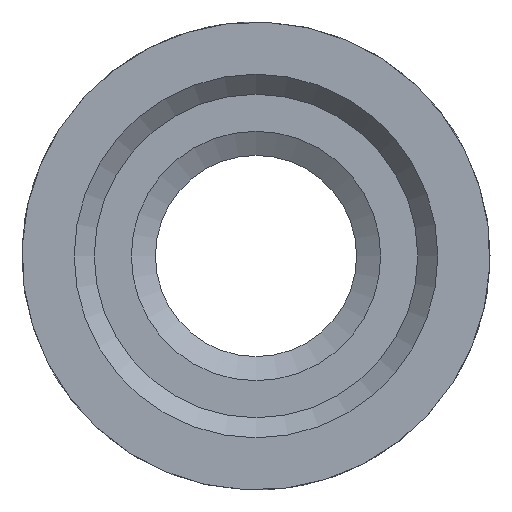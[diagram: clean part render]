
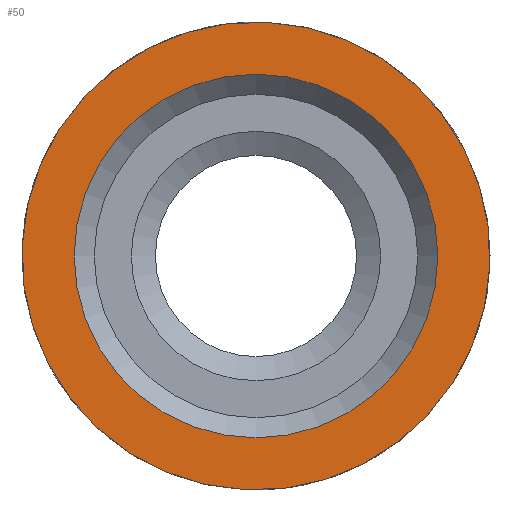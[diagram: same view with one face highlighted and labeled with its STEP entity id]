
A CAD part, front view. The second image highlights one B-rep face of the part: STEP entity #50.
In plain terms, the highlighted planar face has unit normal (0, -1, 0).
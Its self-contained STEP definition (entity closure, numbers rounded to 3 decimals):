
#50=ADVANCED_FACE('',(#169,#171),#173,.T.);
#169=FACE_BOUND('',#170,.T.);
#170=EDGE_LOOP('',(#844));
#171=FACE_BOUND('',#172,.T.);
#172=EDGE_LOOP('',(#845));
#173=PLANE('',#174);
#174=AXIS2_PLACEMENT_3D('',#175,#176,#177);
#175=CARTESIAN_POINT('',(0.,-20.5,0.));
#176=DIRECTION('',(0.,-1.,0.));
#177=DIRECTION('',(-1.,0.,0.));
#844=ORIENTED_EDGE('',*,*,#1034,.T.);
#845=ORIENTED_EDGE('',*,*,#1035,.T.);
#1034=EDGE_CURVE('',#1141,#1141,#1142,.T.);
#1035=EDGE_CURVE('',#1143,#1143,#1144,.F.);
#1141=VERTEX_POINT('',#1351);
#1142=CIRCLE('',#1352,17.45);
#1143=VERTEX_POINT('',#1356);
#1144=CIRCLE('',#1357,13.559);
#1351=CARTESIAN_POINT('',(-15.5,-20.5,-8.016));
#1352=AXIS2_PLACEMENT_3D('',#1353,#1354,#1355);
#1353=CARTESIAN_POINT('',(0.,-20.5,0.));
#1354=DIRECTION('',(0.,-1.,0.));
#1355=DIRECTION('',(-1.,0.,0.));
#1356=CARTESIAN_POINT('',(-13.559,-20.5,0.));
#1357=AXIS2_PLACEMENT_3D('',#1358,#1359,#1360);
#1358=CARTESIAN_POINT('',(0.,-20.5,0.));
#1359=DIRECTION('',(0.,-1.,0.));
#1360=DIRECTION('',(-1.,0.,0.));
